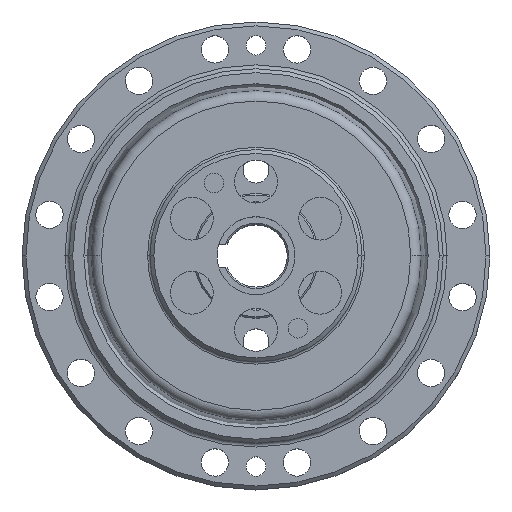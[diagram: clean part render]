
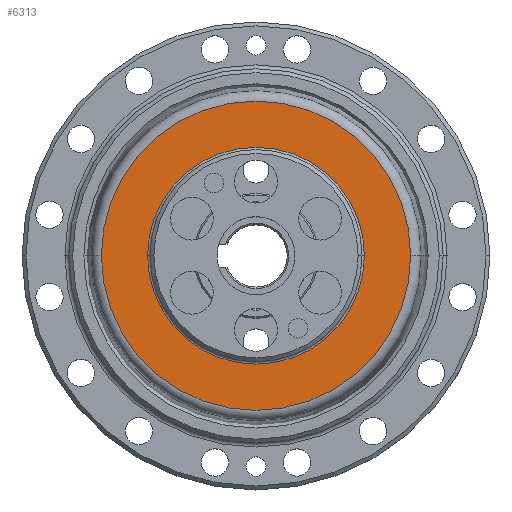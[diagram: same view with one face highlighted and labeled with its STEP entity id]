
A CAD part, top view. The second image highlights one B-rep face of the part: STEP entity #6313.
In plain terms, the highlighted planar face has unit normal (0, 0, 1).
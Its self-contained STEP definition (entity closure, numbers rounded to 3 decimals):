
#59 = DIRECTION ( 'NONE',  ( 1., 0., 0. ) ) ;
#106 = EDGE_CURVE ( 'NONE', #4719, #6102, #7576, .T. ) ;
#196 = ORIENTED_EDGE ( 'NONE', *, *, #6761, .T. ) ;
#842 = CIRCLE ( 'NONE', #2104, 19.833 ) ;
#947 = PLANE ( 'NONE',  #8815 ) ;
#1117 = DIRECTION ( 'NONE',  ( 1., 0., 0. ) ) ;
#1757 = CARTESIAN_POINT ( 'NONE',  ( 13.9, 0., 14.792 ) ) ;
#2029 = CARTESIAN_POINT ( 'NONE',  ( -13.9, 0., 14.792 ) ) ;
#2051 = CARTESIAN_POINT ( 'NONE',  ( 19.833, 0., 14.792 ) ) ;
#2104 = AXIS2_PLACEMENT_3D ( 'NONE', #6844, #9368, #59 ) ;
#2111 = ORIENTED_EDGE ( 'NONE', *, *, #2505, .T. ) ;
#2308 = CARTESIAN_POINT ( 'NONE',  ( -19.833, 0., 14.792 ) ) ;
#2505 = EDGE_CURVE ( 'NONE', #4223, #9748, #842, .T. ) ;
#2516 = DIRECTION ( 'NONE',  ( 0., 0., 1. ) ) ;
#2918 = AXIS2_PLACEMENT_3D ( 'NONE', #9852, #4808, #1117 ) ;
#3628 = DIRECTION ( 'NONE',  ( 1., 0., 0. ) ) ;
#3929 = FACE_OUTER_BOUND ( 'NONE', #8761, .T. ) ;
#4223 = VERTEX_POINT ( 'NONE', #2051 ) ;
#4719 = VERTEX_POINT ( 'NONE', #1757 ) ;
#4808 = DIRECTION ( 'NONE',  ( 0., 0., 1. ) ) ;
#5007 = CARTESIAN_POINT ( 'NONE',  ( 0., 0., 14.792 ) ) ;
#5253 = AXIS2_PLACEMENT_3D ( 'NONE', #5891, #9419, #3628 ) ;
#5874 = FACE_BOUND ( 'NONE', #8244, .T. ) ;
#5891 = CARTESIAN_POINT ( 'NONE',  ( 0., 0., 14.792 ) ) ;
#6102 = VERTEX_POINT ( 'NONE', #2029 ) ;
#6313 = ADVANCED_FACE ( 'NONE', ( #5874, #3929 ), #947, .F. ) ;
#6582 = DIRECTION ( 'NONE',  ( 1., 0., 0. ) ) ;
#6761 = EDGE_CURVE ( 'NONE', #9748, #4223, #8310, .T. ) ;
#6844 = CARTESIAN_POINT ( 'NONE',  ( 0., 0., 14.792 ) ) ;
#7064 = AXIS2_PLACEMENT_3D ( 'NONE', #5007, #2516, #6582 ) ;
#7576 = CIRCLE ( 'NONE', #7064, 13.9 ) ;
#8244 = EDGE_LOOP ( 'NONE', ( #10383, #8453 ) ) ;
#8310 = CIRCLE ( 'NONE', #2918, 19.833 ) ;
#8409 = DIRECTION ( 'NONE',  ( -1., 0., 0. ) ) ;
#8453 = ORIENTED_EDGE ( 'NONE', *, *, #10079, .F. ) ;
#8761 = EDGE_LOOP ( 'NONE', ( #2111, #196 ) ) ;
#8815 = AXIS2_PLACEMENT_3D ( 'NONE', #10482, #10268, #8409 ) ;
#9368 = DIRECTION ( 'NONE',  ( 0., 0., 1. ) ) ;
#9419 = DIRECTION ( 'NONE',  ( 0., 0., 1. ) ) ;
#9748 = VERTEX_POINT ( 'NONE', #2308 ) ;
#9852 = CARTESIAN_POINT ( 'NONE',  ( 0., 0., 14.792 ) ) ;
#10044 = CIRCLE ( 'NONE', #5253, 13.9 ) ;
#10079 = EDGE_CURVE ( 'NONE', #6102, #4719, #10044, .T. ) ;
#10268 = DIRECTION ( 'NONE',  ( 0., 0., -1. ) ) ;
#10383 = ORIENTED_EDGE ( 'NONE', *, *, #106, .F. ) ;
#10482 = CARTESIAN_POINT ( 'NONE',  ( 0., 19.833, 14.792 ) ) ;
